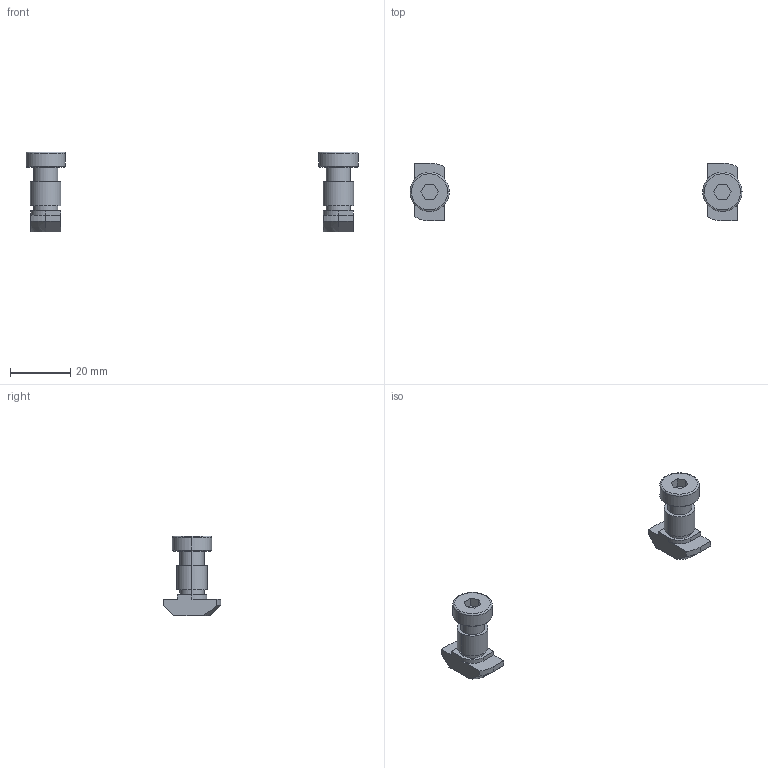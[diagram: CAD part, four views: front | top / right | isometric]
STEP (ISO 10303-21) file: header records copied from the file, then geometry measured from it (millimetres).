
FILE_DESCRIPTION (( 'STEP AP203' ), '1' );
FILE_NAME ('75000012.STEP', '2016-11-18T10:01:59', ( '' ), ( '' ), 'SwSTEP 2.0', 'SolidWorks 2015', '' );
FILE_SCHEMA (( 'CONFIG_CONTROL_DESIGN' ));
Length unit declared in the file: millimetre
Products named in the file (1): 75000012
Bounding box: 110 x 19.2 x 26.5 mm (x, y, z)
Volume: 4979.6 mm3; surface area: 4502.8 mm2
Topology: 2 solids, 2 shells, 100 faces, 236 edges, 152 vertices
Faces by surface type: plane 48, cylinder 36, cone 12, torus 4
Entity records: 3439 total; most frequent: CARTESIAN_POINT 1009, DIRECTION 494, ORIENTED_EDGE 472, EDGE_CURVE 236, AXIS2_PLACEMENT_3D 177, VERTEX_POINT 152, LINE 140, VECTOR 140
